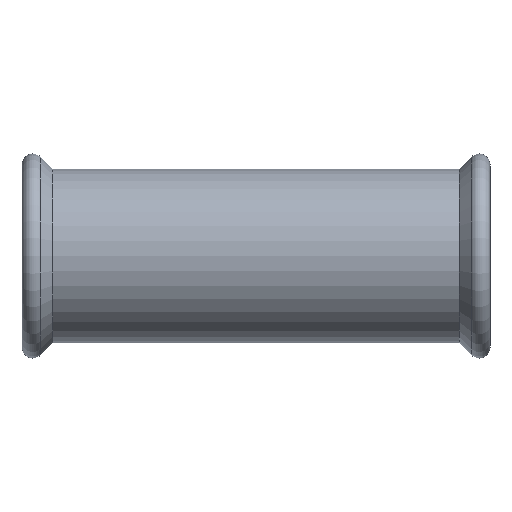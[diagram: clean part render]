
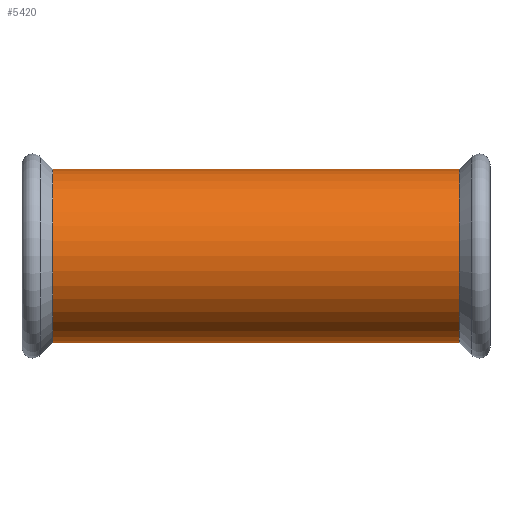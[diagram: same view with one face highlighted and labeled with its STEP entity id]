
A CAD part, top view. The second image highlights one B-rep face of the part: STEP entity #5420.
In plain terms, the highlighted cylindrical face has radius 56.35 mm (diameter 112.7 mm), a partial arc.
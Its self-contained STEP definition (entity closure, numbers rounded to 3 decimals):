
#10=CARTESIAN_POINT('',(45.19,0.,0.));
#20=DIRECTION('',(-1.,0.,0.));
#30=DIRECTION('',(0.,1.,0.));
#40=AXIS2_PLACEMENT_3D('',#10,#20,#30);
#50=CYLINDRICAL_SURFACE('',#40,56.35);
#60=CARTESIAN_POINT('',(45.19,-56.35,0.));
#70=DIRECTION('',(-1.,0.,0.));
#80=VECTOR('',#70,1.);
#90=LINE('',#60,#80);
#100=CARTESIAN_POINT('',(65.151,-56.35,0.))
;
#110=VERTEX_POINT('',#100);
#120=CARTESIAN_POINT('',(-199.151,-56.35,0.)
);
#130=VERTEX_POINT('',#120);
#140=EDGE_CURVE('',#110,#130,#90,.T.);
#160=CARTESIAN_POINT('',(65.151,0.,0.));
#170=DIRECTION('',(1.,0.,0.));
#180=DIRECTION('',(0.,1.,0.));
#190=AXIS2_PLACEMENT_3D('',#160,#170,#180);
#200=CIRCLE('',#190,56.35);
#210=CARTESIAN_POINT('',(65.151,56.35,0.));
#220=VERTEX_POINT('',#210);
#250=CARTESIAN_POINT('',(45.19,56.35,0.));
#260=DIRECTION('',(-1.,0.,0.));
#270=VECTOR('',#260,1.);
#280=LINE('',#250,#270);
#290=CARTESIAN_POINT('',(-199.151,56.35,0.));
#300=VERTEX_POINT('',#290);
#310=EDGE_CURVE('',#220,#300,#280,.T.);
#330=CARTESIAN_POINT('',(-199.151,0.,0.));
#340=DIRECTION('',(-1.,0.,0.));
#350=DIRECTION('',(0.,-1.,0.));
#360=AXIS2_PLACEMENT_3D('',#330,#340,#350);
#370=CIRCLE('',#360,56.35);
#4980=EDGE_CURVE('',#130,#300,#370,.T.);
#5350=EDGE_CURVE('',#220,#110,#200,.T.);
#5360=ORIENTED_EDGE('',*,*,#5350,.F.);
#5370=ORIENTED_EDGE('',*,*,#140,.F.);
#5380=ORIENTED_EDGE('',*,*,#4980,.F.);
#5390=ORIENTED_EDGE('',*,*,#310,.T.);
#5400=EDGE_LOOP('',(#5390,#5380,#5370,#5360));
#5410=FACE_OUTER_BOUND('',#5400,.T.);
#5420=ADVANCED_FACE('',(#5410),#50,.T.);
